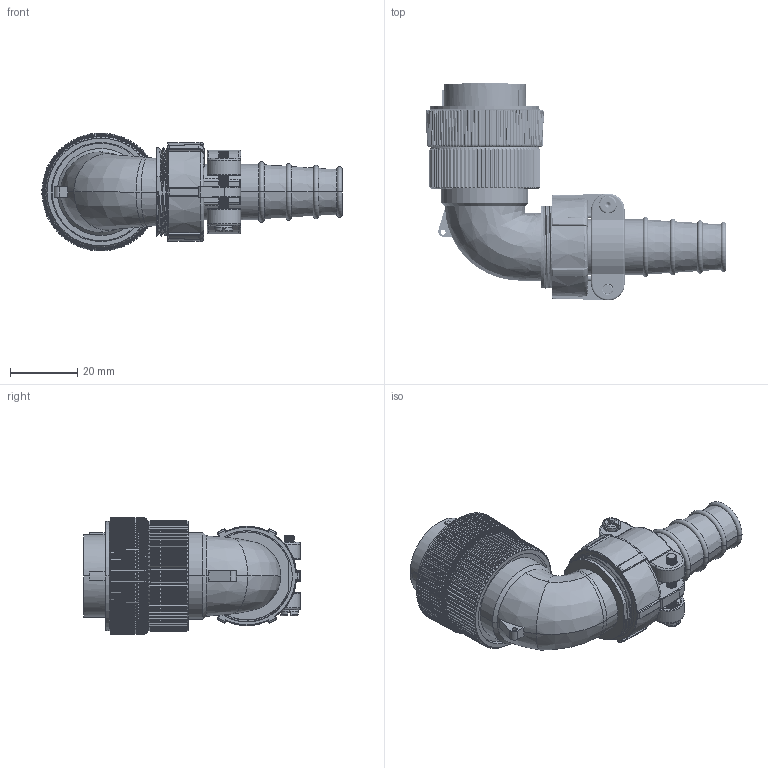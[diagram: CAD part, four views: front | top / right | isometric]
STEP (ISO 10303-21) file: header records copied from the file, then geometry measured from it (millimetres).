
FILE_DESCRIPTION((''),'2;1');
FILE_NAME('WF28K17TV','2020-06-09T',('Administrator'),(''),'CREO PARAMETRIC BY PTC INC, 2016130','CREO PARAMETRIC BY PTC INC, 2016130','');
FILE_SCHEMA(('CONFIG_CONTROL_DESIGN'));
Products named in the file (1): WF28K17TV
Bounding box: 89.36 x 64.55 x 35.11 mm (x, y, z)
Volume: 46450.1 mm3; surface area: 24778.7 mm2
Topology: 1 solids, 31 shells, 2842 faces, 7518 edges, 4778 vertices
Faces by surface type: plane 1371, cylinder 731, bspline 348, torus 202, cone 190
Entity records: 122487 total; most frequent: CARTESIAN_POINT 57319, ORIENTED_EDGE 15028, DIRECTION 11564, EDGE_CURVE 7514, VERTEX_POINT 4778, AXIS2_PLACEMENT_3D 4386, EDGE_LOOP 2906, FACE_OUTER_BOUND 2842
